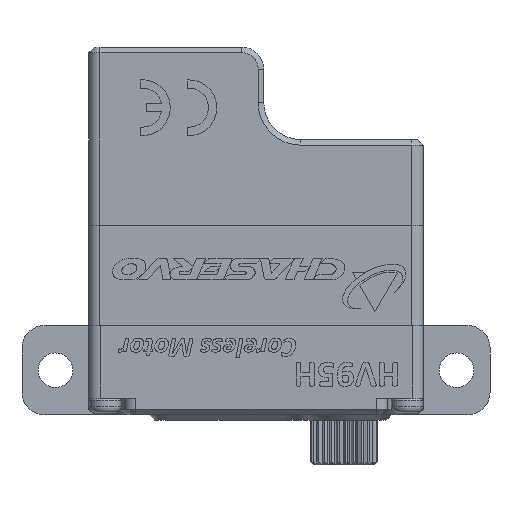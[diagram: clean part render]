
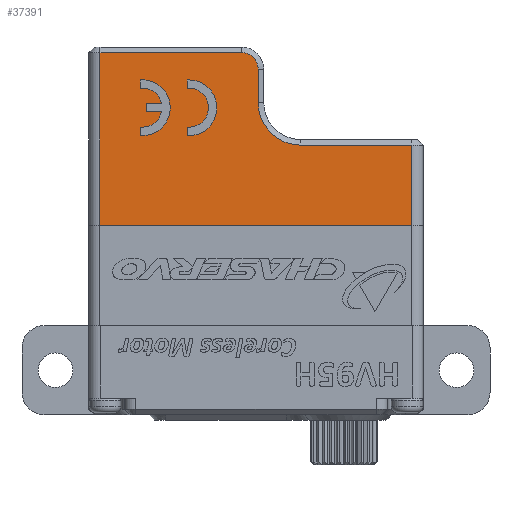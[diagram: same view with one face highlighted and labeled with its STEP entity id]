
A CAD part, front view. The second image highlights one B-rep face of the part: STEP entity #37391.
In plain terms, the highlighted planar face has unit normal (0, -1, 0).
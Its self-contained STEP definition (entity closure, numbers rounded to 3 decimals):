
#932 = VECTOR ( 'NONE', #12221, 1000. ) ;
#2238 = EDGE_CURVE ( 'NONE', #33090, #9234, #22211, .T. ) ;
#3328 = LINE ( 'NONE', #16492, #14031 ) ;
#3613 = FACE_OUTER_BOUND ( 'NONE', #31247, .T. ) ;
#3871 = DIRECTION ( 'NONE',  ( 0., 0., -1. ) ) ;
#4514 = ORIENTED_EDGE ( 'NONE', *, *, #32779, .T. ) ;
#6346 = DIRECTION ( 'NONE',  ( -1., 0., 0. ) ) ;
#6536 = VERTEX_POINT ( 'NONE', #30709 ) ;
#7188 = CARTESIAN_POINT ( 'NONE',  ( -47.344, -15.846, 20.05 ) ) ;
#7786 = DIRECTION ( 'NONE',  ( 0., 1., 0. ) ) ;
#8780 = ORIENTED_EDGE ( 'NONE', *, *, #42209, .T. ) ;
#9234 = VERTEX_POINT ( 'NONE', #18548 ) ;
#9660 = CARTESIAN_POINT ( 'NONE',  ( -43.544, -15.846, 13.25 ) ) ;
#10466 = VERTEX_POINT ( 'NONE', #7188 ) ;
#10937 = CIRCLE ( 'NONE', #33345, 3.8 ) ;
#11326 = VECTOR ( 'NONE', #44166, 1000. ) ;
#11744 = VECTOR ( 'NONE', #43736, 1000. ) ;
#12221 = DIRECTION ( 'NONE',  ( -1., 0., 0. ) ) ;
#12315 = ORIENTED_EDGE ( 'NONE', *, *, #45262, .T. ) ;
#12802 = LINE ( 'NONE', #34242, #932 ) ;
#13028 = LINE ( 'NONE', #16711, #16452 ) ;
#14031 = VECTOR ( 'NONE', #6346, 1000. ) ;
#14769 = CARTESIAN_POINT ( 'NONE',  ( -47.344, -15.846, 17.05 ) ) ;
#16452 = VECTOR ( 'NONE', #28388, 1000. ) ;
#16492 = CARTESIAN_POINT ( 'NONE',  ( -61.544, -15.846, 21.55 ) ) ;
#16619 = AXIS2_PLACEMENT_3D ( 'NONE', #44398, #22599, #30174 ) ;
#16661 = VERTEX_POINT ( 'NONE', #14769 ) ;
#16711 = CARTESIAN_POINT ( 'NONE',  ( -47.344, -15.846, 36.05 ) ) ;
#16919 = VERTEX_POINT ( 'NONE', #41425 ) ;
#18548 = CARTESIAN_POINT ( 'NONE',  ( -61.544, -15.846, 6.05 ) ) ;
#18873 = CARTESIAN_POINT ( 'NONE',  ( -61.544, -15.846, 36.05 ) ) ;
#19638 = LINE ( 'NONE', #36411, #11744 ) ;
#22005 = CARTESIAN_POINT ( 'NONE',  ( -32.544, -15.846, 36.05 ) ) ;
#22211 = LINE ( 'NONE', #18873, #26153 ) ;
#22599 = DIRECTION ( 'NONE',  ( 0., -1., 0. ) ) ;
#23029 = AXIS2_PLACEMENT_3D ( 'NONE', #22005, #7786, #3871 ) ;
#25669 = ORIENTED_EDGE ( 'NONE', *, *, #35152, .T. ) ;
#25881 = EDGE_CURVE ( 'NONE', #10466, #16919, #45062, .T. ) ;
#26153 = VECTOR ( 'NONE', #32799, 1000. ) ;
#27055 = DIRECTION ( 'NONE',  ( 0., 0., -1. ) ) ;
#28388 = DIRECTION ( 'NONE',  ( 0., 0., 1. ) ) ;
#28788 = ORIENTED_EDGE ( 'NONE', *, *, #2238, .T. ) ;
#29306 = CARTESIAN_POINT ( 'NONE',  ( -33.544, -15.846, 36.05 ) ) ;
#30174 = DIRECTION ( 'NONE',  ( 0., 0., -1. ) ) ;
#30709 = CARTESIAN_POINT ( 'NONE',  ( -33.544, -15.846, 6.05 ) ) ;
#30748 = EDGE_CURVE ( 'NONE', #16661, #10466, #13028, .T. ) ;
#31247 = EDGE_LOOP ( 'NONE', ( #12315, #8780, #4514, #34756, #31306, #25669, #28788, #34792 ) ) ;
#31306 = ORIENTED_EDGE ( 'NONE', *, *, #25881, .T. ) ;
#31686 = LINE ( 'NONE', #29306, #11326 ) ;
#32316 = VERTEX_POINT ( 'NONE', #38584 ) ;
#32779 = EDGE_CURVE ( 'NONE', #32936, #16661, #10937, .T. ) ;
#32799 = DIRECTION ( 'NONE',  ( 0., 0., -1. ) ) ;
#32936 = VERTEX_POINT ( 'NONE', #9660 ) ;
#33090 = VERTEX_POINT ( 'NONE', #41205 ) ;
#33345 = AXIS2_PLACEMENT_3D ( 'NONE', #45702, #42032, #27055 ) ;
#34242 = CARTESIAN_POINT ( 'NONE',  ( -32.544, -15.846, 13.25 ) ) ;
#34756 = ORIENTED_EDGE ( 'NONE', *, *, #30748, .T. ) ;
#34792 = ORIENTED_EDGE ( 'NONE', *, *, #46112, .T. ) ;
#35152 = EDGE_CURVE ( 'NONE', #16919, #33090, #3328, .T. ) ;
#35699 = PLANE ( 'NONE',  #23029 ) ;
#36411 = CARTESIAN_POINT ( 'NONE',  ( -32.544, -15.846, 6.05 ) ) ;
#37391 = ADVANCED_FACE ( 'NONE', ( #3613 ), #35699, .F. ) ;
#38584 = CARTESIAN_POINT ( 'NONE',  ( -33.544, -15.846, 13.25 ) ) ;
#41205 = CARTESIAN_POINT ( 'NONE',  ( -61.544, -15.846, 21.55 ) ) ;
#41425 = CARTESIAN_POINT ( 'NONE',  ( -48.844, -15.846, 21.55 ) ) ;
#42032 = DIRECTION ( 'NONE',  ( 0., 1., 0. ) ) ;
#42209 = EDGE_CURVE ( 'NONE', #32316, #32936, #12802, .T. ) ;
#43736 = DIRECTION ( 'NONE',  ( 1., 0., 0. ) ) ;
#44166 = DIRECTION ( 'NONE',  ( 0., 0., 1. ) ) ;
#44398 = CARTESIAN_POINT ( 'NONE',  ( -48.844, -15.846, 20.05 ) ) ;
#45062 = CIRCLE ( 'NONE', #16619, 1.5 ) ;
#45262 = EDGE_CURVE ( 'NONE', #6536, #32316, #31686, .T. ) ;
#45702 = CARTESIAN_POINT ( 'NONE',  ( -43.544, -15.846, 17.05 ) ) ;
#46112 = EDGE_CURVE ( 'NONE', #9234, #6536, #19638, .T. ) ;
